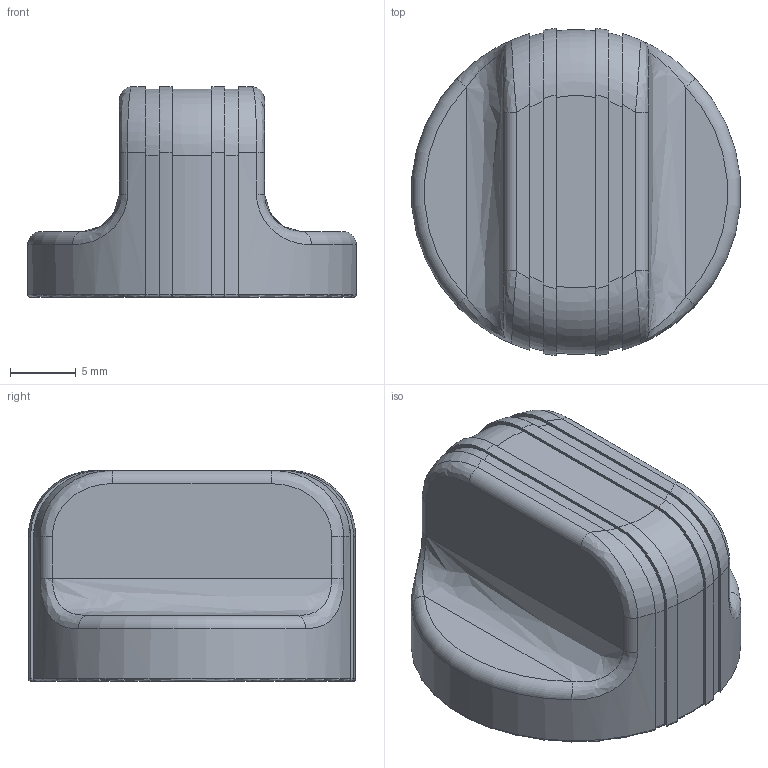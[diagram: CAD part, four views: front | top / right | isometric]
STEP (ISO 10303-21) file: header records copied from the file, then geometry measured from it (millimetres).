
FILE_DESCRIPTION(/* description */ (''),/* implementation_level */ '2;1');
FILE_NAME(/* name */ 'Cross Feed Knob.step',/* time_stamp */ '2026-06-21T08:35:01+01:00',/* author */ (''),/* organization */ (''),/* preprocessor_version */ 'ST-DEVELOPER v20.1',/* originating_system */ 'Autodesk Translation Framework v15.8.0.0',/* authorisation */ '');
FILE_SCHEMA (('AUTOMOTIVE_DESIGN { 1 0 10303 214 3 1 1 }'));
Length unit declared in the file: millimetre
Products named in the file (2): 2026-06-21-08-34-16-022; 2026-06-21-08-34-20-476
Assembly tree (1 placements, depth 2):
  2026-06-21-08-34-16-022
    2026-06-21-08-34-20-476
Bounding box: 24.91 x 24.82 x 16 mm (x, y, z)
Volume: 4917.2 mm3; surface area: 2262.1 mm2
Topology: 1 solids, 1 shells, 91 faces, 222 edges, 134 vertices
Faces by surface type: cylinder 32, torus 29, plane 20, bspline 10
Entity records: 3656 total; most frequent: CARTESIAN_POINT 1530, ORIENTED_EDGE 444, DIRECTION 399, EDGE_CURVE 222, AXIS2_PLACEMENT_3D 159, VERTEX_POINT 134, EDGE_LOOP 92, FACE_OUTER_BOUND 91
